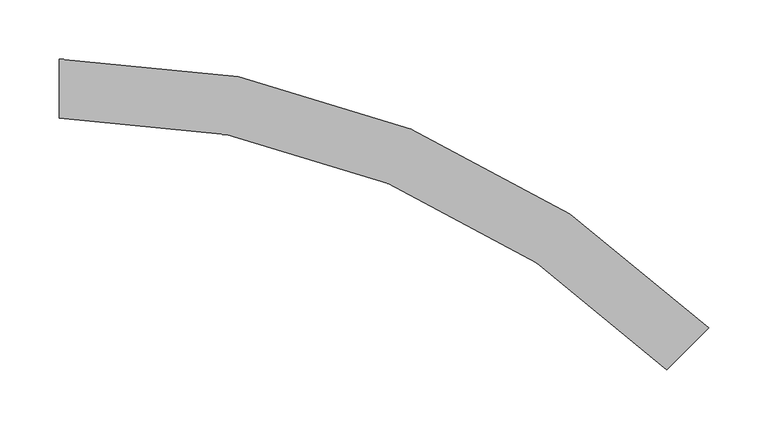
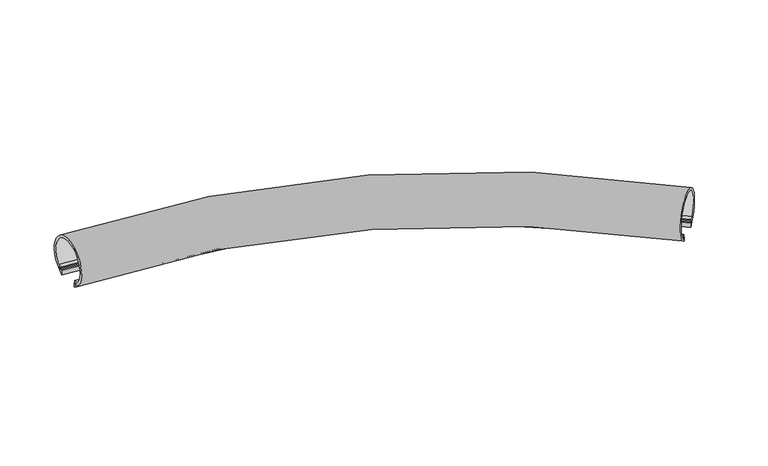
"""IFC4 building model written with IfcOpenShell, lengths in millimetres: light fixture geometry, ARTEMIDE-AoL-System-Curved_Suspended_US : Suspended_Curved 45°-750mm 1118lm 3000K."""

from ifc_helpers import new_model, si_unit, point, frame, origin, place, context, project, spatial, polyline, circle_curve, ellipse_curve, trimmed, source, transform, mapped, element, save
from ifc_brep_helpers import plane_surface, cylinder_surface, revolved_surface, advanced_brep


def light_fixture_34390d9e(model_context):
    return source(origin(), model_context, "Body", "AdvancedBrep", [
        advanced_brep(
        [(499.4162398, -175.4873356, 502.6676119), (499.4162398, -175.4873356, 507.259212), (501.0111252, -173.6526299, 507.259212), (501.0111252, -173.6526299, 509.244074), (500.3550661, -174.4073395, 509.244074), (500.3550661, -174.4073395, 510.744074), (483.7334774, -193.5282901, 510.744074), (483.7334774, -193.5282901, 509.244074), (483.0774183, -194.2829997, 509.244074), (483.0774183, -194.2829997, 507.259212), (484.6723037, -192.448294, 507.259212), (484.6723037, -192.448294, 502.6676119), (51.5335196, -13.0363353, 502.6676119), (53.101191, 9.3824107, 502.6676119), (53.101191, 9.3824107, 507.259212), (53.2707696, 11.8074977, 507.259212), (53.2707696, 11.8074977, 509.244074), (53.2010132, 10.8099337, 509.244074), (53.2010132, 10.8099337, 510.744074), (51.4336975, -14.4638583, 510.744074), (51.4336975, -14.4638583, 509.244074), (51.363941, -15.4614223, 509.244074), (51.363941, -15.4614223, 507.259212), (51.5335196, -13.0363353, 507.259212)],
        [
            (0, 1),
            (1, 2),
            (2, 3),
            (3, 4),
            (4, 5),
            (5, 6),
            (6, 7),
            (7, 8),
            (8, 9),
            (9, 10),
            (10, 11),
            (11, 0, circle_curve(frame((492.0442717, -183.9678148, 525.0), z_axis=(0.7547095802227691, -0.6560590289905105, 0.0), x_axis=(0.6560590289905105, 0.7547095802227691, 0.0)), 25.0)),
            (11, 12, circle_curve(frame((0.0, -750.0, 502.6676119), z_axis=(0.0, 0.0, 1.0), x_axis=(0.0, 1.0, 0.0)), 738.7632549)),
            (12, 13, circle_curve(frame((52.3173553, -1.8269623, 525.0), z_axis=(0.9975640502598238, -0.0697564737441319, 0.0), x_axis=(0.0697564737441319, 0.9975640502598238, 0.0)), 25.0)),
            (13, 0, circle_curve(frame((0.0, -750.0, 502.6676119), z_axis=(0.0, 0.0, -1.0), x_axis=(0.0, 1.0, 0.0)), 761.2367451)),
            (13, 14),
            (14, 1, circle_curve(frame((0.0, -750.0, 507.259212), z_axis=(0.0, 0.0, -1.0), x_axis=(0.0, 1.0, 0.0)), 761.2367451)),
            (14, 15),
            (15, 2, circle_curve(frame((0.0, -750.0, 507.259212), z_axis=(0.0, 0.0, -1.0), x_axis=(0.0, 1.0, 0.0)), 763.667754)),
            (15, 16),
            (16, 3, circle_curve(frame((0.0, -750.0, 509.244074), z_axis=(0.0, 0.0, -1.0), x_axis=(0.0, 1.0, 0.0)), 763.667754)),
            (16, 17),
            (17, 4, circle_curve(frame((0.0, -750.0, 509.244074), z_axis=(0.0, 0.0, -1.0), x_axis=(0.0, 1.0, 0.0)), 762.667754)),
            (17, 18),
            (18, 5, circle_curve(frame((0.0, -750.0, 510.744074), z_axis=(0.0, 0.0, -1.0), x_axis=(0.0, 1.0, 0.0)), 762.667754)),
            (18, 19),
            (19, 6, circle_curve(frame((0.0, -750.0, 510.744074), z_axis=(0.0, 0.0, -1.0), x_axis=(0.0, 1.0, 0.0)), 737.332246)),
            (19, 20),
            (20, 7, circle_curve(frame((0.0, -750.0, 509.244074), z_axis=(0.0, 0.0, -1.0), x_axis=(0.0, 1.0, 0.0)), 737.332246)),
            (20, 21),
            (21, 8, circle_curve(frame((0.0, -750.0, 509.244074), z_axis=(0.0, 0.0, -1.0), x_axis=(0.0, 1.0, 0.0)), 736.332246)),
            (21, 22),
            (22, 9, circle_curve(frame((0.0, -750.0, 507.259212), z_axis=(0.0, 0.0, -1.0), x_axis=(0.0, 1.0, 0.0)), 736.332246)),
            (22, 23),
            (23, 10, circle_curve(frame((0.0, -750.0, 507.259212), z_axis=(0.0, 0.0, -1.0), x_axis=(0.0, 1.0, 0.0)), 738.7632549)),
            (23, 12),
        ],
        [
            plane_surface(frame((492.0442717, -183.9678148, 500.0), z_axis=(0.7547095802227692, -0.6560590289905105, 0.0), x_axis=(0.0, 0.0, 1.0))),
            revolved_surface(trimmed(ellipse_curve(frame((0.0, 0.0, 525.0), z_axis=(-1.0, 0.0, 0.0), x_axis=(0.0, 1.0, 0.0)), 25.0, 25.0), [point((0.0, 11.2367451, 502.6676119))], [point((0.0, -11.2367451, 502.6676119))], True, "CARTESIAN"), (0.0, -750.0, 500.0), (0.0, 0.0, -1.0)),
            cylinder_surface(frame((0.0, -750.0, 500.0), z_axis=(0.0, 0.0, -1.0), x_axis=(0.0, 1.0, 0.0)), 761.2367451),
            plane_surface(frame((0.0, -750.0, 507.259212), z_axis=(0.0, 0.0, -1.0), x_axis=(0.0, 1.0, 0.0))),
            cylinder_surface(frame((0.0, -750.0, 500.0), z_axis=(0.0, 0.0, -1.0), x_axis=(0.0, 1.0, 0.0)), 763.667754),
            plane_surface(frame((0.0, -750.0, 509.244074), z_axis=(0.0, 0.0, 1.0), x_axis=(0.0, 1.0, 0.0))),
            cylinder_surface(frame((0.0, -750.0, 500.0), z_axis=(0.0, 0.0, -1.0), x_axis=(0.0, 1.0, 0.0)), 762.667754),
            plane_surface(frame((0.0, -750.0, 510.744074), z_axis=(0.0, 0.0, 1.0), x_axis=(0.0, 1.0, 0.0))),
            revolved_surface(polyline([(0.0, -12.667753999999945, 509.244074), (0.0, -12.667753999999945, 510.744074)]), (0.0, -750.0, 500.0), (0.0, 0.0, -1.0)),
            revolved_surface(polyline([(0.0, -13.667753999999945, 507.259212), (0.0, -13.667753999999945, 509.244074)]), (0.0, -750.0, 500.0), (0.0, 0.0, -1.0)),
            revolved_surface(polyline([(0.0, -11.236745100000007, 502.6676119), (0.0, -11.236745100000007, 507.259212)]), (0.0, -750.0, 500.0), (0.0, 0.0, -1.0)),
            plane_surface(frame((52.3173553, -1.8269623, 500.0), z_axis=(-0.997564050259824, 0.06975647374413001, 0.0), x_axis=(0.0, 0.0, 1.0))),
        ],
        [
            (0, [[1, 2, 3, 4, 5, 6, 7, 8, 9, 10, 11, 12]]),
            (1, [[-12, 13, 14, 15]]),
            (2, [[-1, -15, 16, 17]]),
            (3, [[-2, -17, 18, 19]]),
            (4, [[-3, -19, 20, 21]]),
            (5, [[-4, -21, 22, 23]]),
            (6, [[-5, -23, 24, 25]]),
            (7, [[-6, -25, 26, 27]]),
            (8, [[-7, -27, 28, 29]]),
            (5, [[-8, -29, 30, 31]]),
            (9, [[-9, -31, 32, 33]]),
            (3, [[-10, -33, 34, 35]]),
            (10, [[-11, -35, 36, -13]]),
            (11, [[-14, -36, -34, -32, -30, -28, -26, -24, -22, -20, -18, -16]]),
        ],
    ),
        advanced_brep(
        [(0.0, -11.2367451, 502.6676119), (0.0, 11.2367451, 502.6676119), (0.0, 11.2367451, 507.259212), (0.0, 13.667754, 507.259212), (0.0, 13.667754, 505.8288843), (0.0, 15.617754, 507.2440748), (0.0, 15.617754, 509.244074), (0.0, 12.667754, 509.244074), (0.0, 12.667754, 510.744074), (0.0, 17.2779794, 510.744074), (0.0, -17.2779794, 510.744074), (0.0, -12.667754, 510.744074), (0.0, -12.667754, 509.244074), (0.0, -15.617754, 509.244074), (0.0, -15.617754, 507.2440748), (0.0, -13.667754, 505.8288843), (0.0, -13.667754, 507.259212), (0.0, -11.2367451, 507.259212), (522.3845072, -227.6154928, 502.6676119), (522.3845072, -227.6154928, 507.259212), (520.6655244, -229.3344756, 507.259212), (520.6655244, -229.3344756, 505.8288843), (519.2866661, -230.7133339, 507.2440748), (519.2866661, -230.7133339, 509.244074), (521.3726311, -228.6273689, 509.244074), (521.3726311, -228.6273689, 510.744074), (518.1127095, -231.8872905, 510.744074), (542.5474623, -207.4525377, 510.744074), (539.2875406, -210.7124594, 510.744074), (539.2875406, -210.7124594, 509.244074), (541.3735056, -208.6264943, 509.244074), (541.3735056, -208.6264943, 507.2440748), (539.9946474, -210.0053526, 505.8288843), (539.9946474, -210.0053526, 507.259212), (538.2756646, -211.7243354, 507.259212), (538.2756646, -211.7243354, 502.6676119)],
        [
            (0, 1, circle_curve(frame((0.0, 0.0, 525.0), z_axis=(-1.0, 0.0, 0.0), x_axis=(0.0, 1.0, 0.0)), 25.0)),
            (1, 2),
            (2, 3),
            (3, 4),
            (4, 5),
            (5, 6),
            (6, 7),
            (7, 8),
            (8, 9),
            (9, 10, circle_curve(frame((0.0, 0.0, 525.0), z_axis=(1.0, 0.0, 0.0), x_axis=(0.0, 1.0, 0.0)), 22.4)),
            (10, 11),
            (11, 12),
            (12, 13),
            (13, 14),
            (14, 15),
            (15, 16),
            (16, 17),
            (17, 0),
            (18, 19),
            (19, 20),
            (20, 21),
            (21, 22),
            (22, 23),
            (23, 24),
            (24, 25),
            (25, 26),
            (26, 27, circle_curve(frame((530.3300859, -219.6699141, 525.0), z_axis=(-0.7071067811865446, 0.7071067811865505, 0.0), x_axis=(0.7071067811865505, 0.7071067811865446, 0.0)), 22.4)),
            (27, 28),
            (28, 29),
            (29, 30),
            (30, 31),
            (31, 32),
            (32, 33),
            (33, 34),
            (34, 35),
            (35, 18, circle_curve(frame((530.3300859, -219.6699141, 525.0), z_axis=(0.7071067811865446, -0.7071067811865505, 0.0), x_axis=(0.7071067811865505, 0.7071067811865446, 0.0)), 25.0)),
            (35, 1, circle_curve(frame((0.0, -750.0, 502.6676119), z_axis=(0.0, 0.0, 1.0), x_axis=(0.0, 1.0, 0.0)), 761.2367451)),
            (0, 18, circle_curve(frame((0.0, -750.0, 502.6676119), z_axis=(0.0, 0.0, -1.0), x_axis=(0.0, 1.0, 0.0)), 738.7632549)),
            (34, 2, circle_curve(frame((0.0, -750.0, 507.259212), z_axis=(0.0, 0.0, 1.0), x_axis=(0.0, 1.0, 0.0)), 761.2367451)),
            (33, 3, circle_curve(frame((0.0, -750.0, 507.259212), z_axis=(0.0, 0.0, 1.0), x_axis=(0.0, 1.0, 0.0)), 763.667754)),
            (32, 4, circle_curve(frame((0.0, -750.0, 505.8288843), z_axis=(0.0, 0.0, 1.0), x_axis=(0.0, 1.0, 0.0)), 763.667754)),
            (31, 5, circle_curve(frame((0.0, -750.0, 507.2440748), z_axis=(0.0, 0.0, 1.0), x_axis=(0.0, 1.0, 0.0)), 765.617754)),
            (30, 6, circle_curve(frame((0.0, -750.0, 509.244074), z_axis=(0.0, 0.0, 1.0), x_axis=(0.0, 1.0, 0.0)), 765.617754)),
            (29, 7, circle_curve(frame((0.0, -750.0, 509.244074), z_axis=(0.0, 0.0, 1.0), x_axis=(0.0, 1.0, 0.0)), 762.667754)),
            (28, 8, circle_curve(frame((0.0, -750.0, 510.744074), z_axis=(0.0, 0.0, 1.0), x_axis=(0.0, 1.0, 0.0)), 762.667754)),
            (27, 9, circle_curve(frame((0.0, -750.0, 510.744074), z_axis=(0.0, 0.0, 1.0), x_axis=(0.0, 1.0, 0.0)), 767.2779794)),
            (25, 11, circle_curve(frame((0.0, -750.0, 510.744074), z_axis=(0.0, 0.0, 1.0), x_axis=(0.0, 1.0, 0.0)), 737.332246)),
            (10, 26, circle_curve(frame((0.0, -750.0, 510.744074), z_axis=(0.0, 0.0, -1.0), x_axis=(0.0, 1.0, 0.0)), 732.7220206)),
            (24, 12, circle_curve(frame((0.0, -750.0, 509.244074), z_axis=(0.0, 0.0, 1.0), x_axis=(0.0, 1.0, 0.0)), 737.332246)),
            (23, 13, circle_curve(frame((0.0, -750.0, 509.244074), z_axis=(0.0, 0.0, 1.0), x_axis=(0.0, 1.0, 0.0)), 734.382246)),
            (22, 14, circle_curve(frame((0.0, -750.0, 507.2440748), z_axis=(0.0, 0.0, 1.0), x_axis=(0.0, 1.0, 0.0)), 734.382246)),
            (21, 15, circle_curve(frame((0.0, -750.0, 505.8288843), z_axis=(0.0, 0.0, 1.0), x_axis=(0.0, 1.0, 0.0)), 736.332246)),
            (20, 16, circle_curve(frame((0.0, -750.0, 507.259212), z_axis=(0.0, 0.0, 1.0), x_axis=(0.0, 1.0, 0.0)), 736.332246)),
            (19, 17, circle_curve(frame((0.0, -750.0, 507.259212), z_axis=(0.0, 0.0, 1.0), x_axis=(0.0, 1.0, 0.0)), 738.7632549)),
        ],
        [
            plane_surface(frame((0.0, 0.0, 500.0), z_axis=(-1.0, 0.0, 0.0), x_axis=(0.0, 0.0, 1.0))),
            plane_surface(frame((530.3300859, -219.6699141, 500.0), z_axis=(0.7071067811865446, -0.7071067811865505, 0.0), x_axis=(0.0, 0.0, 1.0))),
            revolved_surface(trimmed(ellipse_curve(frame((0.0, 0.0, 525.0), z_axis=(-1.0, 0.0, 0.0), x_axis=(0.0, 1.0, 0.0)), 25.0, 25.0), [point((0.0, -11.2367451, 502.6676119))], [point((0.0, 11.2367451, 502.6676119))], True, "CARTESIAN"), (0.0, -750.0, 500.0), (0.0, 0.0, -1.0)),
            revolved_surface(polyline([(0.0, 11.236745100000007, 502.6676119), (0.0, 11.236745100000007, 507.259212)]), (0.0, -750.0, 500.0), (0.0, 0.0, -1.0)),
            plane_surface(frame((0.0, -750.0, 507.259212), z_axis=(0.0, 0.0, 1.0), x_axis=(0.0, 1.0, 0.0))),
            cylinder_surface(frame((0.0, -750.0, 500.0), z_axis=(0.0, 0.0, -1.0), x_axis=(0.0, 1.0, 0.0)), 763.667754),
            revolved_surface(polyline([(0.0, 13.667754, 505.8288843), (0.0, 15.617754, 507.2440748)]), (0.0, -750.0, 500.0), (0.0, 0.0, -1.0)),
            revolved_surface(polyline([(0.0, 15.61775399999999, 507.2440748), (0.0, 15.61775399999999, 509.244074)]), (0.0, -750.0, 500.0), (0.0, 0.0, -1.0)),
            plane_surface(frame((0.0, -750.0, 509.244074), z_axis=(0.0, 0.0, -1.0), x_axis=(0.0, 1.0, 0.0))),
            revolved_surface(polyline([(0.0, 12.667753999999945, 509.244074), (0.0, 12.667753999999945, 510.744074)]), (0.0, -750.0, 500.0), (0.0, 0.0, -1.0)),
            plane_surface(frame((0.0, -750.0, 510.744074), z_axis=(0.0, 0.0, 1.0), x_axis=(0.0, 1.0, 0.0))),
            cylinder_surface(frame((0.0, -750.0, 500.0), z_axis=(0.0, 0.0, -1.0), x_axis=(0.0, 1.0, 0.0)), 737.332246),
            cylinder_surface(frame((0.0, -750.0, 500.0), z_axis=(0.0, 0.0, -1.0), x_axis=(0.0, 1.0, 0.0)), 734.382246),
            revolved_surface(polyline([(0.0, -15.617754, 507.2440748), (0.0, -13.667754, 505.8288843)]), (0.0, -750.0, 500.0), (0.0, 0.0, -1.0)),
            revolved_surface(polyline([(0.0, -13.667753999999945, 505.8288843), (0.0, -13.667753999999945, 507.259212)]), (0.0, -750.0, 500.0), (0.0, 0.0, -1.0)),
            cylinder_surface(frame((0.0, -750.0, 500.0), z_axis=(0.0, 0.0, -1.0), x_axis=(0.0, 1.0, 0.0)), 738.7632549),
            revolved_surface(trimmed(ellipse_curve(frame((0.0, 0.0, 525.0), z_axis=(1.0, 0.0, 0.0), x_axis=(0.0, 1.0, 0.0)), 22.4, 22.4), [point((0.0, 17.2779794, 510.744074))], [point((0.0, -17.2779794, 510.744074))], True, "CARTESIAN"), (0.0, -750.0, 500.0), (0.0, 0.0, -1.0)),
        ],
        [
            (0, [[1, 2, 3, 4, 5, 6, 7, 8, 9, 10, 11, 12, 13, 14, 15, 16, 17, 18]]),
            (1, [[19, 20, 21, 22, 23, 24, 25, 26, 27, 28, 29, 30, 31, 32, 33, 34, 35, 36]]),
            (2, [[37, -1, 38, -36]]),
            (3, [[39, -2, -37, -35]]),
            (4, [[40, -3, -39, -34]]),
            (5, [[41, -4, -40, -33]]),
            (6, [[42, -5, -41, -32]]),
            (7, [[43, -6, -42, -31]]),
            (8, [[44, -7, -43, -30]]),
            (9, [[45, -8, -44, -29]]),
            (10, [[46, -9, -45, -28]]),
            (10, [[47, -11, 48, -26]]),
            (11, [[49, -12, -47, -25]]),
            (8, [[50, -13, -49, -24]]),
            (12, [[51, -14, -50, -23]]),
            (13, [[52, -15, -51, -22]]),
            (14, [[53, -16, -52, -21]]),
            (4, [[54, -17, -53, -20]]),
            (15, [[-38, -18, -54, -19]]),
            (16, [[-48, -10, -46, -27]]),
        ],
    ),
    ])


if __name__ == "__main__":
    model = new_model("IFC4")
    model_context = context("Model", 3, world=origin())
    ifc_project = project(units=[si_unit("LENGTHUNIT", "METRE", prefix="MILLI")], contexts=[model_context])
    site = spatial("IfcSite", under=ifc_project)
    building = spatial("IfcBuilding", under=site)
    placement = place(None, origin())
    light_fixture_shape = light_fixture_34390d9e(model_context)
    element("IfcLightFixture", 1, ObjectType="ARTEMIDE-AoL-System-Curved_Suspended_US : Suspended_Curved 45°-750mm 1118lm 3000K", at=placement, inside=building, context=model_context, shape_type="MappedRepresentation", body=[
        mapped(light_fixture_shape, transform((0.0, 0.0, 0.0), x_axis=(1.0, 0.0, 0.0), y_axis=(0.0, 1.0, 0.0), z_axis=(0.0, 0.0, 1.0))),
    ])
    save(model, "model.ifc")
